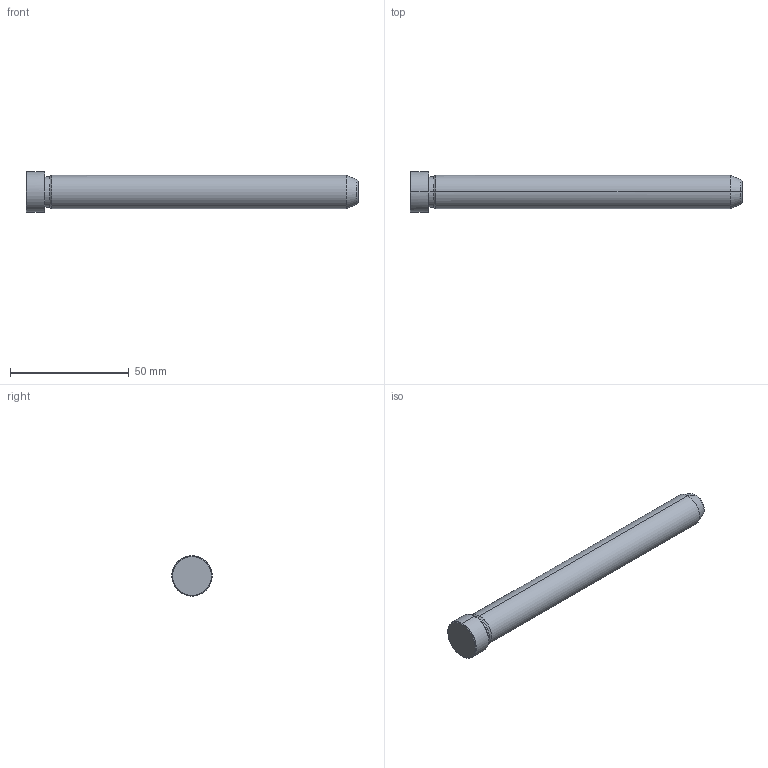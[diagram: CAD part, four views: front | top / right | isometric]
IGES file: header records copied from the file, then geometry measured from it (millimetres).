
Start section: START RECORD GO HERE.
Global section: file name: 549-14X140.igs; native system: DASSAULT SYSTEMES CATIA V5 R20 - www.3ds.com; preprocessor: CATIA Version 5 Release 20 ; author: Utente; organization: NB04-ASUS; date: 20211211.102513; units: millimetre
Bounding box: 140 x 17 x 17 mm (x, y, z)
Surface area: 6588.9 mm2 (no closed solid volume)
Topology: 0 solids, 0 shells, 19 faces, 112 edges, 112 vertices
Faces by surface type: revolution 16, plane 3
